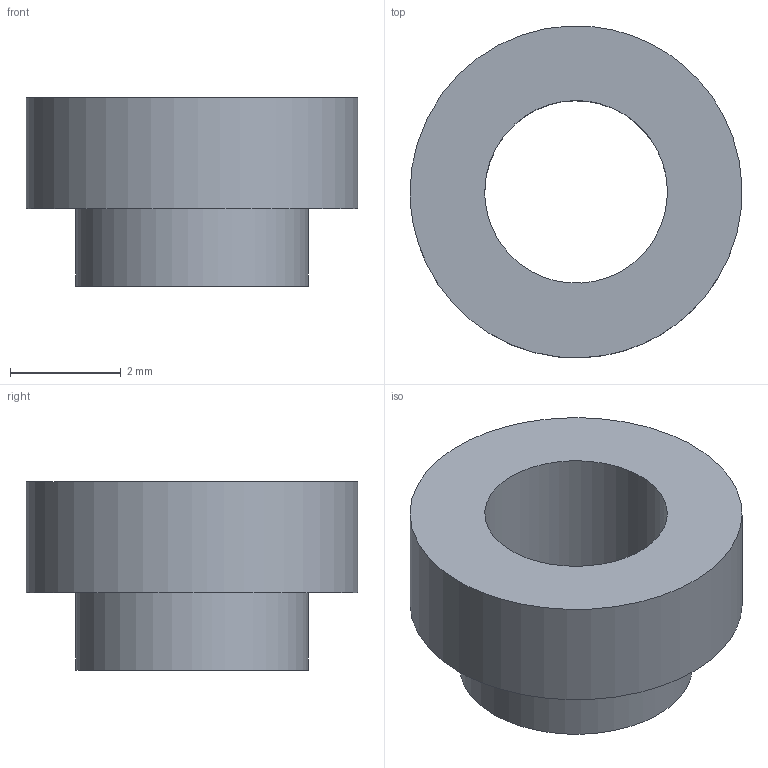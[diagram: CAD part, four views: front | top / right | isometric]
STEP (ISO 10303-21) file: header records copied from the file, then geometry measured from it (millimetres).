
FILE_DESCRIPTION(('FreeCAD Model'),'2;1');
FILE_NAME('Open CASCADE Shape Model','2026-03-20T17:23:05',('Author'),( ''),'Open CASCADE STEP processor 7.8','FreeCAD','Unknown');
FILE_SCHEMA(('AP242_MANAGED_MODEL_BASED_3D_ENGINEERING_MIM_LF. {1 0 10303 442 1 1 4 }'));
Length unit declared in the file: millimetre
Products named in the file (1): 1_transformed
Bounding box: 6 x 5.99 x 3.4 mm (x, y, z)
Volume: 47.3 mm3; surface area: 131.1 mm2
Topology: 1 solids, 1 shells, 6 faces, 9 edges, 6 vertices
Faces by surface type: bspline 6
Entity records: 201 total; most frequent: CARTESIAN_POINT 109, ORIENTED_EDGE 18, FACE_BOUND 9, EDGE_LOOP 9, EDGE_CURVE 9, ADVANCED_FACE 6, VERTEX_POINT 6, B_SPLINE_SURFACE_WITH_KNOTS 3
